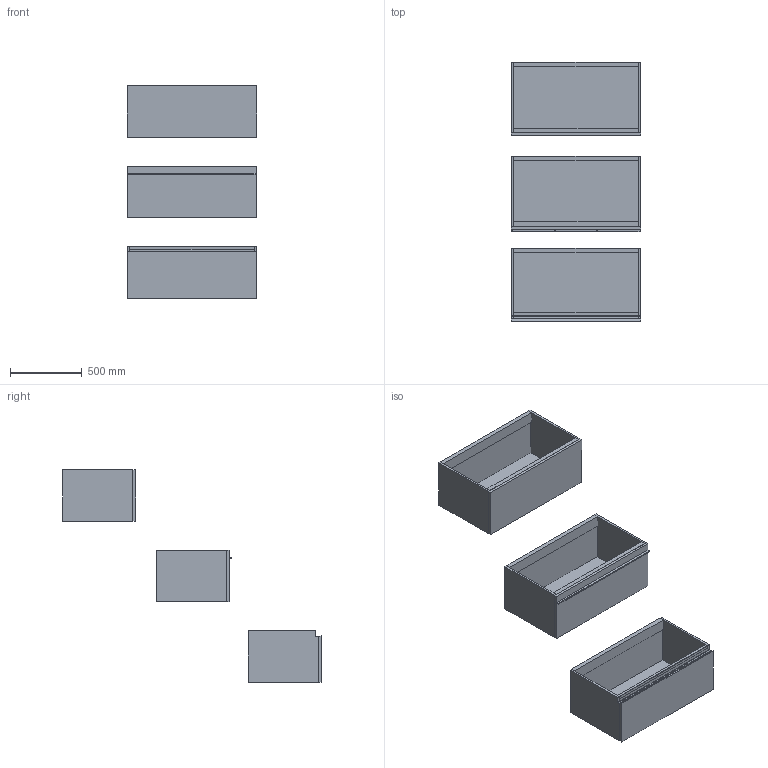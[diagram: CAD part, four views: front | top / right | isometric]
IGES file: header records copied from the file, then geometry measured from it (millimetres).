
Start section: Data from Parasolid IGES Translator 19.0.9, Copyright(c) 2006 Siemens PL M Software. All Rights Reserved.
Global section: file name: noorth-SI-H 36 D 51 W 90_8363.igs; native system: By Siemens PLM Incorporated; preprocessor: XPlus GENERIC/IGES 19.0.9; author: Noname; organization: Noname; date: 20200601.094830; units: metre
Bounding box: 900 x 1799.15 x 1480.01 mm (x, y, z)
Volume: 65180367.7 mm3; surface area: 9645454.6 mm2
Topology: 23 solids, 23 shells, 196 faces, 418 edges, 258 vertices
Faces by surface type: plane 152, extrusion 16, bspline 16, cylinder 12
